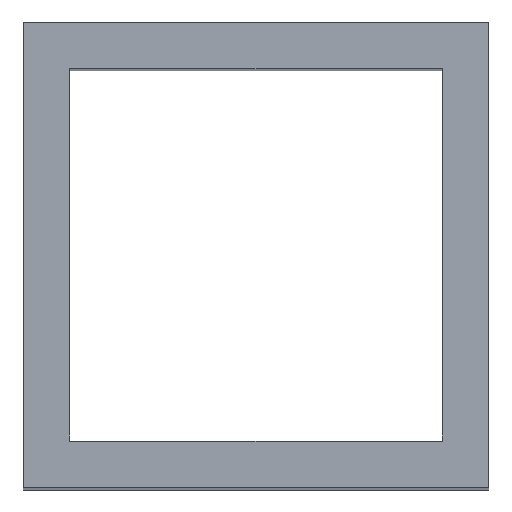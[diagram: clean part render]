
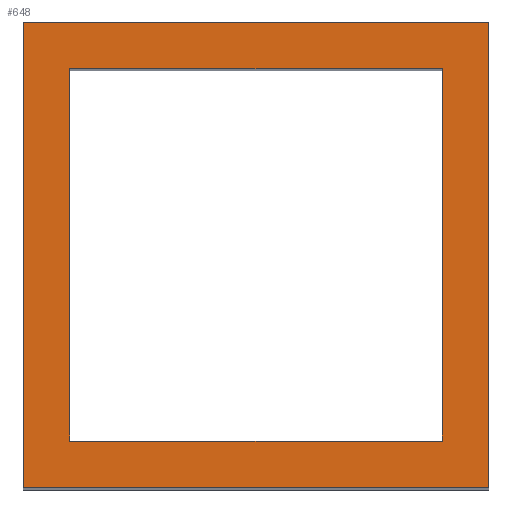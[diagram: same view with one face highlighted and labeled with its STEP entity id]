
A CAD part, top view. The second image highlights one B-rep face of the part: STEP entity #648.
In plain terms, the highlighted planar face has unit normal (0, 0, 1).
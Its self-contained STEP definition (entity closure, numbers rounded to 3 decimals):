
#24 = VERTEX_POINT('',#25);
#25 = CARTESIAN_POINT('',(-50.,-50.,300.));
#32 = PLANE('',#33);
#33 = AXIS2_PLACEMENT_3D('',#34,#35,#36);
#34 = CARTESIAN_POINT('',(-50.,-50.,0.));
#35 = DIRECTION('',(0.,1.,0.));
#36 = DIRECTION('',(1.,0.,0.));
#44 = PLANE('',#45);
#45 = AXIS2_PLACEMENT_3D('',#46,#47,#48);
#46 = CARTESIAN_POINT('',(-50.,50.,0.));
#47 = DIRECTION('',(1.,0.,-0.));
#48 = DIRECTION('',(0.,-1.,0.));
#56 = EDGE_CURVE('',#24,#57,#59,.T.);
#57 = VERTEX_POINT('',#58);
#58 = CARTESIAN_POINT('',(50.,-50.,300.));
#59 = SURFACE_CURVE('',#60,(#64,#71),.PCURVE_S1.);
#60 = LINE('',#61,#62);
#61 = CARTESIAN_POINT('',(-50.,-50.,300.));
#62 = VECTOR('',#63,1.);
#63 = DIRECTION('',(1.,0.,0.));
#64 = PCURVE('',#32,#65);
#65 = DEFINITIONAL_REPRESENTATION('',(#66),#70);
#66 = LINE('',#67,#68);
#67 = CARTESIAN_POINT('',(0.,-300.));
#68 = VECTOR('',#69,1.);
#69 = DIRECTION('',(1.,0.));
#70 = ( GEOMETRIC_REPRESENTATION_CONTEXT(2) 
PARAMETRIC_REPRESENTATION_CONTEXT() REPRESENTATION_CONTEXT('2D SPACE',''
  ) );
#71 = PCURVE('',#72,#77);
#72 = PLANE('',#73);
#73 = AXIS2_PLACEMENT_3D('',#74,#75,#76);
#74 = CARTESIAN_POINT('',(0.,0.,300.));
#75 = DIRECTION('',(0.,0.,1.));
#76 = DIRECTION('',(1.,0.,-0.));
#77 = DEFINITIONAL_REPRESENTATION('',(#78),#82);
#78 = LINE('',#79,#80);
#79 = CARTESIAN_POINT('',(-50.,-50.));
#80 = VECTOR('',#81,1.);
#81 = DIRECTION('',(1.,0.));
#82 = ( GEOMETRIC_REPRESENTATION_CONTEXT(2) 
PARAMETRIC_REPRESENTATION_CONTEXT() REPRESENTATION_CONTEXT('2D SPACE',''
  ) );
#100 = PLANE('',#101);
#101 = AXIS2_PLACEMENT_3D('',#102,#103,#104);
#102 = CARTESIAN_POINT('',(50.,-50.,0.));
#103 = DIRECTION('',(-1.,0.,0.));
#104 = DIRECTION('',(0.,1.,0.));
#142 = EDGE_CURVE('',#57,#143,#145,.T.);
#143 = VERTEX_POINT('',#144);
#144 = CARTESIAN_POINT('',(50.,50.,300.));
#145 = SURFACE_CURVE('',#146,(#150,#157),.PCURVE_S1.);
#146 = LINE('',#147,#148);
#147 = CARTESIAN_POINT('',(50.,-50.,300.));
#148 = VECTOR('',#149,1.);
#149 = DIRECTION('',(0.,1.,0.));
#150 = PCURVE('',#100,#151);
#151 = DEFINITIONAL_REPRESENTATION('',(#152),#156);
#152 = LINE('',#153,#154);
#153 = CARTESIAN_POINT('',(0.,-300.));
#154 = VECTOR('',#155,1.);
#155 = DIRECTION('',(1.,0.));
#156 = ( GEOMETRIC_REPRESENTATION_CONTEXT(2) 
PARAMETRIC_REPRESENTATION_CONTEXT() REPRESENTATION_CONTEXT('2D SPACE',''
  ) );
#157 = PCURVE('',#72,#158);
#158 = DEFINITIONAL_REPRESENTATION('',(#159),#163);
#159 = LINE('',#160,#161);
#160 = CARTESIAN_POINT('',(50.,-50.));
#161 = VECTOR('',#162,1.);
#162 = DIRECTION('',(0.,1.));
#163 = ( GEOMETRIC_REPRESENTATION_CONTEXT(2) 
PARAMETRIC_REPRESENTATION_CONTEXT() REPRESENTATION_CONTEXT('2D SPACE',''
  ) );
#181 = PLANE('',#182);
#182 = AXIS2_PLACEMENT_3D('',#183,#184,#185);
#183 = CARTESIAN_POINT('',(50.,50.,0.));
#184 = DIRECTION('',(0.,-1.,0.));
#185 = DIRECTION('',(-1.,0.,0.));
#218 = EDGE_CURVE('',#143,#219,#221,.T.);
#219 = VERTEX_POINT('',#220);
#220 = CARTESIAN_POINT('',(-50.,50.,300.));
#221 = SURFACE_CURVE('',#222,(#226,#233),.PCURVE_S1.);
#222 = LINE('',#223,#224);
#223 = CARTESIAN_POINT('',(50.,50.,300.));
#224 = VECTOR('',#225,1.);
#225 = DIRECTION('',(-1.,0.,0.));
#226 = PCURVE('',#181,#227);
#227 = DEFINITIONAL_REPRESENTATION('',(#228),#232);
#228 = LINE('',#229,#230);
#229 = CARTESIAN_POINT('',(0.,-300.));
#230 = VECTOR('',#231,1.);
#231 = DIRECTION('',(1.,0.));
#232 = ( GEOMETRIC_REPRESENTATION_CONTEXT(2) 
PARAMETRIC_REPRESENTATION_CONTEXT() REPRESENTATION_CONTEXT('2D SPACE',''
  ) );
#233 = PCURVE('',#72,#234);
#234 = DEFINITIONAL_REPRESENTATION('',(#235),#239);
#235 = LINE('',#236,#237);
#236 = CARTESIAN_POINT('',(50.,50.));
#237 = VECTOR('',#238,1.);
#238 = DIRECTION('',(-1.,0.));
#239 = ( GEOMETRIC_REPRESENTATION_CONTEXT(2) 
PARAMETRIC_REPRESENTATION_CONTEXT() REPRESENTATION_CONTEXT('2D SPACE',''
  ) );
#289 = EDGE_CURVE('',#219,#24,#290,.T.);
#290 = SURFACE_CURVE('',#291,(#295,#302),.PCURVE_S1.);
#291 = LINE('',#292,#293);
#292 = CARTESIAN_POINT('',(-50.,50.,300.));
#293 = VECTOR('',#294,1.);
#294 = DIRECTION('',(0.,-1.,0.));
#295 = PCURVE('',#44,#296);
#296 = DEFINITIONAL_REPRESENTATION('',(#297),#301);
#297 = LINE('',#298,#299);
#298 = CARTESIAN_POINT('',(0.,-300.));
#299 = VECTOR('',#300,1.);
#300 = DIRECTION('',(1.,0.));
#301 = ( GEOMETRIC_REPRESENTATION_CONTEXT(2) 
PARAMETRIC_REPRESENTATION_CONTEXT() REPRESENTATION_CONTEXT('2D SPACE',''
  ) );
#302 = PCURVE('',#72,#303);
#303 = DEFINITIONAL_REPRESENTATION('',(#304),#308);
#304 = LINE('',#305,#306);
#305 = CARTESIAN_POINT('',(-50.,50.));
#306 = VECTOR('',#307,1.);
#307 = DIRECTION('',(0.,-1.));
#308 = ( GEOMETRIC_REPRESENTATION_CONTEXT(2) 
PARAMETRIC_REPRESENTATION_CONTEXT() REPRESENTATION_CONTEXT('2D SPACE',''
  ) );
#338 = VERTEX_POINT('',#339);
#339 = CARTESIAN_POINT('',(-40.,-40.,300.));
#346 = PLANE('',#347);
#347 = AXIS2_PLACEMENT_3D('',#348,#349,#350);
#348 = CARTESIAN_POINT('',(-40.,-40.,0.));
#349 = DIRECTION('',(0.,1.,0.));
#350 = DIRECTION('',(1.,0.,0.));
#358 = PLANE('',#359);
#359 = AXIS2_PLACEMENT_3D('',#360,#361,#362);
#360 = CARTESIAN_POINT('',(-40.,40.,0.));
#361 = DIRECTION('',(1.,0.,-0.));
#362 = DIRECTION('',(0.,-1.,0.));
#370 = EDGE_CURVE('',#338,#371,#373,.T.);
#371 = VERTEX_POINT('',#372);
#372 = CARTESIAN_POINT('',(40.,-40.,300.));
#373 = SURFACE_CURVE('',#374,(#378,#385),.PCURVE_S1.);
#374 = LINE('',#375,#376);
#375 = CARTESIAN_POINT('',(-40.,-40.,300.));
#376 = VECTOR('',#377,1.);
#377 = DIRECTION('',(1.,0.,0.));
#378 = PCURVE('',#346,#379);
#379 = DEFINITIONAL_REPRESENTATION('',(#380),#384);
#380 = LINE('',#381,#382);
#381 = CARTESIAN_POINT('',(0.,-300.));
#382 = VECTOR('',#383,1.);
#383 = DIRECTION('',(1.,0.));
#384 = ( GEOMETRIC_REPRESENTATION_CONTEXT(2) 
PARAMETRIC_REPRESENTATION_CONTEXT() REPRESENTATION_CONTEXT('2D SPACE',''
  ) );
#385 = PCURVE('',#72,#386);
#386 = DEFINITIONAL_REPRESENTATION('',(#387),#391);
#387 = LINE('',#388,#389);
#388 = CARTESIAN_POINT('',(-40.,-40.));
#389 = VECTOR('',#390,1.);
#390 = DIRECTION('',(1.,0.));
#391 = ( GEOMETRIC_REPRESENTATION_CONTEXT(2) 
PARAMETRIC_REPRESENTATION_CONTEXT() REPRESENTATION_CONTEXT('2D SPACE',''
  ) );
#409 = PLANE('',#410);
#410 = AXIS2_PLACEMENT_3D('',#411,#412,#413);
#411 = CARTESIAN_POINT('',(40.,-40.,0.));
#412 = DIRECTION('',(-1.,0.,0.));
#413 = DIRECTION('',(0.,1.,0.));
#446 = EDGE_CURVE('',#371,#447,#449,.T.);
#447 = VERTEX_POINT('',#448);
#448 = CARTESIAN_POINT('',(40.,40.,300.));
#449 = SURFACE_CURVE('',#450,(#454,#461),.PCURVE_S1.);
#450 = LINE('',#451,#452);
#451 = CARTESIAN_POINT('',(40.,-40.,300.));
#452 = VECTOR('',#453,1.);
#453 = DIRECTION('',(0.,1.,0.));
#454 = PCURVE('',#409,#455);
#455 = DEFINITIONAL_REPRESENTATION('',(#456),#460);
#456 = LINE('',#457,#458);
#457 = CARTESIAN_POINT('',(0.,-300.));
#458 = VECTOR('',#459,1.);
#459 = DIRECTION('',(1.,0.));
#460 = ( GEOMETRIC_REPRESENTATION_CONTEXT(2) 
PARAMETRIC_REPRESENTATION_CONTEXT() REPRESENTATION_CONTEXT('2D SPACE',''
  ) );
#461 = PCURVE('',#72,#462);
#462 = DEFINITIONAL_REPRESENTATION('',(#463),#467);
#463 = LINE('',#464,#465);
#464 = CARTESIAN_POINT('',(40.,-40.));
#465 = VECTOR('',#466,1.);
#466 = DIRECTION('',(0.,1.));
#467 = ( GEOMETRIC_REPRESENTATION_CONTEXT(2) 
PARAMETRIC_REPRESENTATION_CONTEXT() REPRESENTATION_CONTEXT('2D SPACE',''
  ) );
#485 = PLANE('',#486);
#486 = AXIS2_PLACEMENT_3D('',#487,#488,#489);
#487 = CARTESIAN_POINT('',(40.,40.,0.));
#488 = DIRECTION('',(0.,-1.,0.));
#489 = DIRECTION('',(-1.,0.,0.));
#522 = EDGE_CURVE('',#447,#523,#525,.T.);
#523 = VERTEX_POINT('',#524);
#524 = CARTESIAN_POINT('',(-40.,40.,300.));
#525 = SURFACE_CURVE('',#526,(#530,#537),.PCURVE_S1.);
#526 = LINE('',#527,#528);
#527 = CARTESIAN_POINT('',(40.,40.,300.));
#528 = VECTOR('',#529,1.);
#529 = DIRECTION('',(-1.,0.,0.));
#530 = PCURVE('',#485,#531);
#531 = DEFINITIONAL_REPRESENTATION('',(#532),#536);
#532 = LINE('',#533,#534);
#533 = CARTESIAN_POINT('',(0.,-300.));
#534 = VECTOR('',#535,1.);
#535 = DIRECTION('',(1.,0.));
#536 = ( GEOMETRIC_REPRESENTATION_CONTEXT(2) 
PARAMETRIC_REPRESENTATION_CONTEXT() REPRESENTATION_CONTEXT('2D SPACE',''
  ) );
#537 = PCURVE('',#72,#538);
#538 = DEFINITIONAL_REPRESENTATION('',(#539),#543);
#539 = LINE('',#540,#541);
#540 = CARTESIAN_POINT('',(40.,40.));
#541 = VECTOR('',#542,1.);
#542 = DIRECTION('',(-1.,0.));
#543 = ( GEOMETRIC_REPRESENTATION_CONTEXT(2) 
PARAMETRIC_REPRESENTATION_CONTEXT() REPRESENTATION_CONTEXT('2D SPACE',''
  ) );
#593 = EDGE_CURVE('',#523,#338,#594,.T.);
#594 = SURFACE_CURVE('',#595,(#599,#606),.PCURVE_S1.);
#595 = LINE('',#596,#597);
#596 = CARTESIAN_POINT('',(-40.,40.,300.));
#597 = VECTOR('',#598,1.);
#598 = DIRECTION('',(0.,-1.,0.));
#599 = PCURVE('',#358,#600);
#600 = DEFINITIONAL_REPRESENTATION('',(#601),#605);
#601 = LINE('',#602,#603);
#602 = CARTESIAN_POINT('',(0.,-300.));
#603 = VECTOR('',#604,1.);
#604 = DIRECTION('',(1.,0.));
#605 = ( GEOMETRIC_REPRESENTATION_CONTEXT(2) 
PARAMETRIC_REPRESENTATION_CONTEXT() REPRESENTATION_CONTEXT('2D SPACE',''
  ) );
#606 = PCURVE('',#72,#607);
#607 = DEFINITIONAL_REPRESENTATION('',(#608),#612);
#608 = LINE('',#609,#610);
#609 = CARTESIAN_POINT('',(-40.,40.));
#610 = VECTOR('',#611,1.);
#611 = DIRECTION('',(0.,-1.));
#612 = ( GEOMETRIC_REPRESENTATION_CONTEXT(2) 
PARAMETRIC_REPRESENTATION_CONTEXT() REPRESENTATION_CONTEXT('2D SPACE',''
  ) );
#648 = ADVANCED_FACE('',(#649,#655),#72,.T.);
#649 = FACE_BOUND('',#650,.T.);
#650 = EDGE_LOOP('',(#651,#652,#653,#654));
#651 = ORIENTED_EDGE('',*,*,#56,.T.);
#652 = ORIENTED_EDGE('',*,*,#142,.T.);
#653 = ORIENTED_EDGE('',*,*,#218,.T.);
#654 = ORIENTED_EDGE('',*,*,#289,.T.);
#655 = FACE_BOUND('',#656,.F.);
#656 = EDGE_LOOP('',(#657,#658,#659,#660));
#657 = ORIENTED_EDGE('',*,*,#370,.T.);
#658 = ORIENTED_EDGE('',*,*,#446,.T.);
#659 = ORIENTED_EDGE('',*,*,#522,.T.);
#660 = ORIENTED_EDGE('',*,*,#593,.T.);
